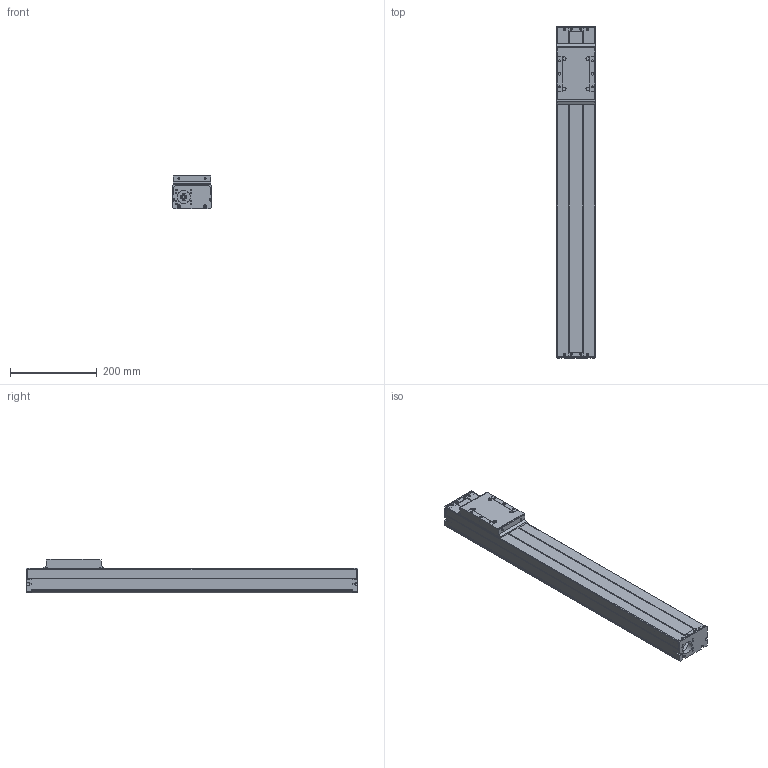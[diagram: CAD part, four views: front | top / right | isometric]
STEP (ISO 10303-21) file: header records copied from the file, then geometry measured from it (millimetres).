
FILE_DESCRIPTION (( 'STEP AP214' ), '1' );
FILE_NAME ('HZMotion TKS90-500A1F0.STEP', '2021-09-15T10:32:44', ( 'AutoBVT' ), ( 'Microsoft' ), 'SwSTEP 2.0', 'SolidWorks 2020', '' );
FILE_SCHEMA (( 'AUTOMOTIVE_DESIGN' ));
Length unit declared in the file: millimetre
Products named in the file (3): 500-2; HZMotion TKS90-500A1F0; A1F0-500-1
Assembly tree (2 placements, depth 2):
  HZMotion TKS90-500A1F0
    500-2
    A1F0-500-1
Bounding box: 90 x 764 x 78 mm (x, y, z)
Volume: 1347458.8 mm3; surface area: 522512.6 mm2
Topology: 2 solids, 6 shells, 520 faces, 1355 edges, 874 vertices
Faces by surface type: plane 269, cylinder 215, cone 32, torus 4
Entity records: 16045 total; most frequent: DIRECTION 2845, CARTESIAN_POINT 2730, ORIENTED_EDGE 2662, EDGE_CURVE 1331, AXIS2_PLACEMENT_3D 989, VERTEX_POINT 874, LINE 867, VECTOR 867
